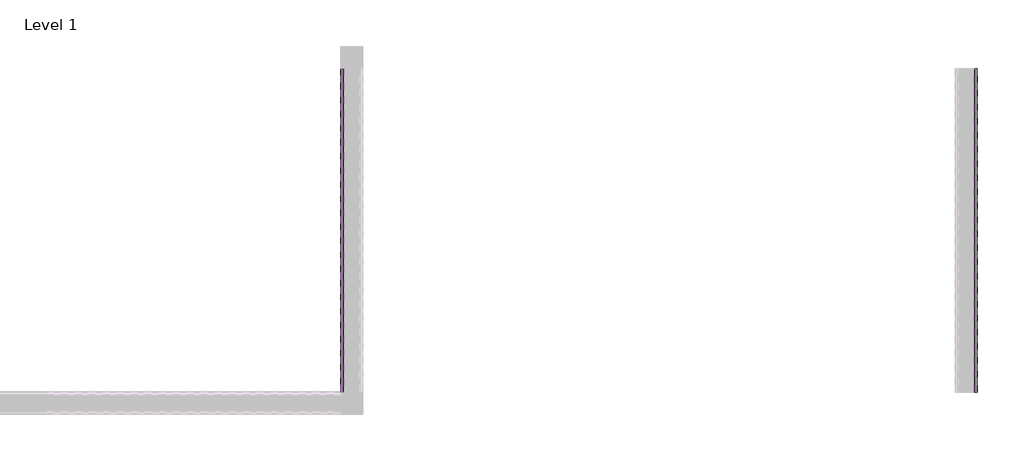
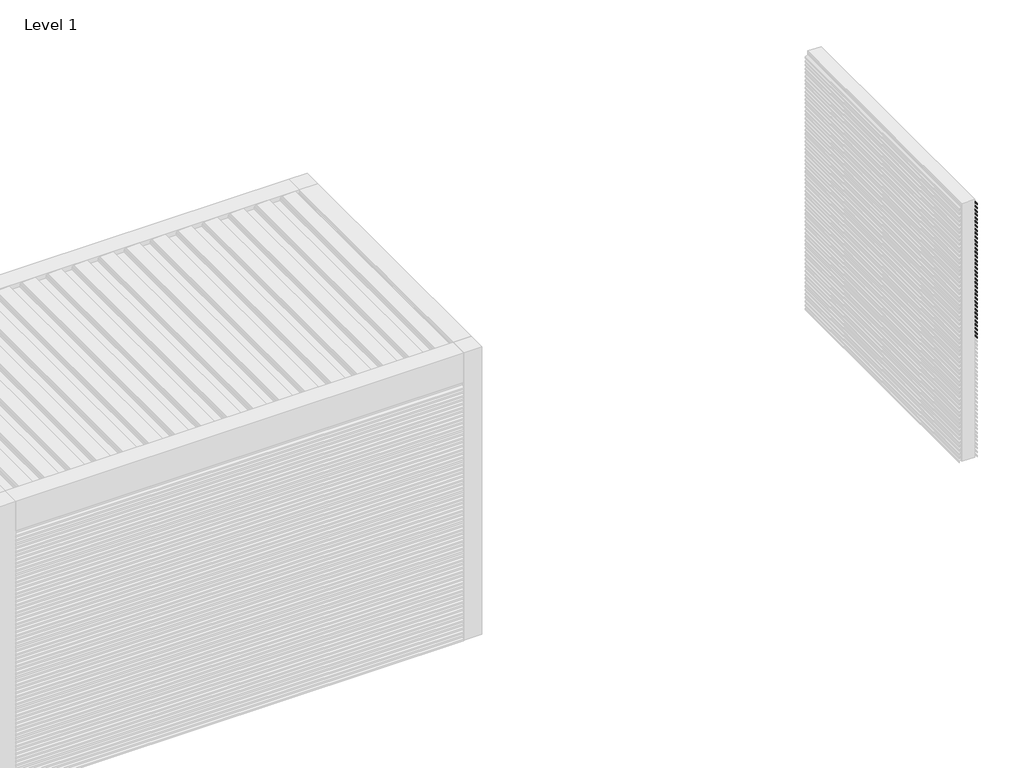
# One storey, part 67 of 69: 84 proxies.
"""IFC4 building model written with IfcOpenShell, lengths in millimetres."""

from ifc_helpers import new_model, si_unit, frame, origin, place, context, project, spatial, polyline, outline, extrude, element, save

model = new_model("IFC4")

# Units and contexts
model_context = context("Model", 3, world=origin())
ifc_project = project(units=[si_unit("LENGTHUNIT", "METRE", prefix="MILLI")], contexts=[model_context])

# Site, building, storey
site = spatial("IfcSite", under=ifc_project)
building = spatial("IfcBuilding", under=site)
storey = spatial("IfcBuildingStorey", under=building, Name="Level 1", Elevation=0.0)

# Proxies
placement = place(None, origin())
element("IfcBuildingElementProxy", 1, Name="Wall Sweeps", at=placement, inside=storey, context=model_context, shape_type="SweptSolid", body=[
    extrude(outline(polyline([(2207.1, 232580.4900207), (2218.1562577, 232561.3400207), (2231.1, 232561.3400207), (2231.1, 232560.0900207), (2217.4345698, 232560.0900207), (2206.3782281, 232579.2400207), (2194.3216933, 232579.2400207), (2193.6, 232580.4900207), (2207.1, 232580.4900207)])), frame((0.0, 39672.1593685, 0.0), z_axis=(0.0, 1.0, 0.0), x_axis=(0.0, 0.0, 1.0)), (0.0, 0.0, 1.0), 2200.0),
])
element("IfcBuildingElementProxy", 2, Name="Wall Sweeps", at=placement, inside=storey, context=model_context, shape_type="SweptSolid", body=[
    extrude(outline(polyline([(2173.8, 232580.4900207), (2184.8562577, 232561.3400207), (2197.8, 232561.3400207), (2197.8, 232560.0900207), (2184.1345698, 232560.0900207), (2173.0782281, 232579.2400207), (2161.0216933, 232579.2400207), (2160.3, 232580.4900207), (2173.8, 232580.4900207)])), frame((0.0, 39672.1593685, 0.0), z_axis=(0.0, 1.0, 0.0), x_axis=(0.0, 0.0, 1.0)), (0.0, 0.0, 1.0), 2200.0),
])
element("IfcBuildingElementProxy", 3, Name="Wall Sweeps", at=placement, inside=storey, context=model_context, shape_type="SweptSolid", body=[
    extrude(outline(polyline([(2140.5, 232580.4900207), (2151.5562577, 232561.3400207), (2164.5, 232561.3400207), (2164.5, 232560.0900207), (2150.8345698, 232560.0900207), (2139.7782281, 232579.2400207), (2127.7216933, 232579.2400207), (2127.0, 232580.4900207), (2140.5, 232580.4900207)])), frame((0.0, 39672.1593685, 0.0), z_axis=(0.0, 1.0, 0.0), x_axis=(0.0, 0.0, 1.0)), (0.0, 0.0, 1.0), 2200.0),
])
element("IfcBuildingElementProxy", 4, Name="Wall Sweeps", at=placement, inside=storey, context=model_context, shape_type="SweptSolid", body=[
    extrude(outline(polyline([(2107.2, 232580.4900207), (2118.2562577, 232561.3400207), (2131.2, 232561.3400207), (2131.2, 232560.0900207), (2117.5345698, 232560.0900207), (2106.4782281, 232579.2400207), (2094.4216933, 232579.2400207), (2093.7, 232580.4900207), (2107.2, 232580.4900207)])), frame((0.0, 39672.1593685, 0.0), z_axis=(0.0, 1.0, 0.0), x_axis=(0.0, 0.0, 1.0)), (0.0, 0.0, 1.0), 2200.0),
])
element("IfcBuildingElementProxy", 5, Name="Wall Sweeps", at=placement, inside=storey, context=model_context, shape_type="SweptSolid", body=[
    extrude(outline(polyline([(2073.9, 232580.4900207), (2084.9562577, 232561.3400207), (2097.9, 232561.3400207), (2097.9, 232560.0900207), (2084.2345698, 232560.0900207), (2073.1782281, 232579.2400207), (2061.1216933, 232579.2400207), (2060.4, 232580.4900207), (2073.9, 232580.4900207)])), frame((0.0, 39672.1593685, 0.0), z_axis=(0.0, 1.0, 0.0), x_axis=(0.0, 0.0, 1.0)), (0.0, 0.0, 1.0), 2200.0),
])
element("IfcBuildingElementProxy", 6, Name="Wall Sweeps", at=placement, inside=storey, context=model_context, shape_type="SweptSolid", body=[
    extrude(outline(polyline([(2040.6, 232580.4900207), (2051.6562577, 232561.3400207), (2064.6, 232561.3400207), (2064.6, 232560.0900207), (2050.9345698, 232560.0900207), (2039.8782281, 232579.2400207), (2027.8216933, 232579.2400207), (2027.1, 232580.4900207), (2040.6, 232580.4900207)])), frame((0.0, 39672.1593685, 0.0), z_axis=(0.0, 1.0, 0.0), x_axis=(0.0, 0.0, 1.0)), (0.0, 0.0, 1.0), 2200.0),
])
element("IfcBuildingElementProxy", 7, Name="Wall Sweeps", at=placement, inside=storey, context=model_context, shape_type="SweptSolid", body=[
    extrude(outline(polyline([(2007.3, 232580.4900207), (2018.3562577, 232561.3400207), (2031.3, 232561.3400207), (2031.3, 232560.0900207), (2017.6345698, 232560.0900207), (2006.5782281, 232579.2400207), (1994.5216933, 232579.2400207), (1993.8, 232580.4900207), (2007.3, 232580.4900207)])), frame((0.0, 39672.1593685, 0.0), z_axis=(0.0, 1.0, 0.0), x_axis=(0.0, 0.0, 1.0)), (0.0, 0.0, 1.0), 2200.0),
])
element("IfcBuildingElementProxy", 8, Name="Wall Sweeps", at=placement, inside=storey, context=model_context, shape_type="SweptSolid", body=[
    extrude(outline(polyline([(1974.0, 232580.4900207), (1985.0562577, 232561.3400207), (1998.0, 232561.3400207), (1998.0, 232560.0900207), (1984.3345698, 232560.0900207), (1973.2782281, 232579.2400207), (1961.2216933, 232579.2400207), (1960.5, 232580.4900207), (1974.0, 232580.4900207)])), frame((0.0, 39672.1593685, 0.0), z_axis=(0.0, 1.0, 0.0), x_axis=(0.0, 0.0, 1.0)), (0.0, 0.0, 1.0), 2200.0),
])
element("IfcBuildingElementProxy", 9, Name="Wall Sweeps", at=placement, inside=storey, context=model_context, shape_type="SweptSolid", body=[
    extrude(outline(polyline([(1940.7, 232580.4900207), (1951.7562577, 232561.3400207), (1964.7, 232561.3400207), (1964.7, 232560.0900207), (1951.0345698, 232560.0900207), (1939.9782281, 232579.2400207), (1927.9216933, 232579.2400207), (1927.2, 232580.4900207), (1940.7, 232580.4900207)])), frame((0.0, 39672.1593685, 0.0), z_axis=(0.0, 1.0, 0.0), x_axis=(0.0, 0.0, 1.0)), (0.0, 0.0, 1.0), 2200.0),
])
element("IfcBuildingElementProxy", 10, Name="Wall Sweeps", at=placement, inside=storey, context=model_context, shape_type="SweptSolid", body=[
    extrude(outline(polyline([(1907.4, 232580.4900207), (1918.4562577, 232561.3400207), (1931.4, 232561.3400207), (1931.4, 232560.0900207), (1917.7345698, 232560.0900207), (1906.6782281, 232579.2400207), (1894.6216933, 232579.2400207), (1893.9, 232580.4900207), (1907.4, 232580.4900207)])), frame((0.0, 39672.1593685, 0.0), z_axis=(0.0, 1.0, 0.0), x_axis=(0.0, 0.0, 1.0)), (0.0, 0.0, 1.0), 2200.0),
])
element("IfcBuildingElementProxy", 11, Name="Wall Sweeps", at=placement, inside=storey, context=model_context, shape_type="SweptSolid", body=[
    extrude(outline(polyline([(1874.1, 232580.4900207), (1885.1562577, 232561.3400207), (1898.1, 232561.3400207), (1898.1, 232560.0900207), (1884.4345698, 232560.0900207), (1873.3782281, 232579.2400207), (1861.3216933, 232579.2400207), (1860.6, 232580.4900207), (1874.1, 232580.4900207)])), frame((0.0, 39672.1593685, 0.0), z_axis=(0.0, 1.0, 0.0), x_axis=(0.0, 0.0, 1.0)), (0.0, 0.0, 1.0), 2200.0),
])
element("IfcBuildingElementProxy", 12, Name="Wall Sweeps", at=placement, inside=storey, context=model_context, shape_type="SweptSolid", body=[
    extrude(outline(polyline([(1840.8, 232580.4900207), (1851.8562577, 232561.3400207), (1864.8, 232561.3400207), (1864.8, 232560.0900207), (1851.1345698, 232560.0900207), (1840.0782281, 232579.2400207), (1828.0216933, 232579.2400207), (1827.3, 232580.4900207), (1840.8, 232580.4900207)])), frame((0.0, 39672.1593685, 0.0), z_axis=(0.0, 1.0, 0.0), x_axis=(0.0, 0.0, 1.0)), (0.0, 0.0, 1.0), 2200.0),
])
element("IfcBuildingElementProxy", 13, Name="Wall Sweeps", at=placement, inside=storey, context=model_context, shape_type="SweptSolid", body=[
    extrude(outline(polyline([(1807.5, 232580.4900207), (1818.5562577, 232561.3400207), (1831.5, 232561.3400207), (1831.5, 232560.0900207), (1817.8345698, 232560.0900207), (1806.7782281, 232579.2400207), (1794.7216933, 232579.2400207), (1794.0, 232580.4900207), (1807.5, 232580.4900207)])), frame((0.0, 39672.1593685, 0.0), z_axis=(0.0, 1.0, 0.0), x_axis=(0.0, 0.0, 1.0)), (0.0, 0.0, 1.0), 2200.0),
])
element("IfcBuildingElementProxy", 14, Name="Wall Sweeps", at=placement, inside=storey, context=model_context, shape_type="SweptSolid", body=[
    extrude(outline(polyline([(1774.2, 232580.4900207), (1785.2562577, 232561.3400207), (1798.2, 232561.3400207), (1798.2, 232560.0900207), (1784.5345698, 232560.0900207), (1773.4782281, 232579.2400207), (1761.4216933, 232579.2400207), (1760.7, 232580.4900207), (1774.2, 232580.4900207)])), frame((0.0, 39672.1593685, 0.0), z_axis=(0.0, 1.0, 0.0), x_axis=(0.0, 0.0, 1.0)), (0.0, 0.0, 1.0), 2200.0),
])
element("IfcBuildingElementProxy", 15, Name="Wall Sweeps", at=placement, inside=storey, context=model_context, shape_type="SweptSolid", body=[
    extrude(outline(polyline([(1740.9, 232580.4900207), (1751.9562577, 232561.3400207), (1764.9, 232561.3400207), (1764.9, 232560.0900207), (1751.2345698, 232560.0900207), (1740.1782281, 232579.2400207), (1728.1216933, 232579.2400207), (1727.4, 232580.4900207), (1740.9, 232580.4900207)])), frame((0.0, 39672.1593685, 0.0), z_axis=(0.0, 1.0, 0.0), x_axis=(0.0, 0.0, 1.0)), (0.0, 0.0, 1.0), 2200.0),
])
element("IfcBuildingElementProxy", 16, Name="Wall Sweeps", at=placement, inside=storey, context=model_context, shape_type="SweptSolid", body=[
    extrude(outline(polyline([(1707.6, 232580.4900207), (1718.6562577, 232561.3400207), (1731.6, 232561.3400207), (1731.6, 232560.0900207), (1717.9345698, 232560.0900207), (1706.8782281, 232579.2400207), (1694.8216933, 232579.2400207), (1694.1, 232580.4900207), (1707.6, 232580.4900207)])), frame((0.0, 39672.1593685, 0.0), z_axis=(0.0, 1.0, 0.0), x_axis=(0.0, 0.0, 1.0)), (0.0, 0.0, 1.0), 2200.0),
])
element("IfcBuildingElementProxy", 17, Name="Wall Sweeps", at=placement, inside=storey, context=model_context, shape_type="SweptSolid", body=[
    extrude(outline(polyline([(1674.3, 232580.4900207), (1685.3562577, 232561.3400207), (1698.3, 232561.3400207), (1698.3, 232560.0900207), (1684.6345698, 232560.0900207), (1673.5782281, 232579.2400207), (1661.5216933, 232579.2400207), (1660.8, 232580.4900207), (1674.3, 232580.4900207)])), frame((0.0, 39672.1593685, 0.0), z_axis=(0.0, 1.0, 0.0), x_axis=(0.0, 0.0, 1.0)), (0.0, 0.0, 1.0), 2200.0),
])
element("IfcBuildingElementProxy", 18, Name="Wall Sweeps", at=placement, inside=storey, context=model_context, shape_type="SweptSolid", body=[
    extrude(outline(polyline([(1641.0, 232580.4900207), (1652.0562577, 232561.3400207), (1665.0, 232561.3400207), (1665.0, 232560.0900207), (1651.3345698, 232560.0900207), (1640.2782281, 232579.2400207), (1628.2216933, 232579.2400207), (1627.5, 232580.4900207), (1641.0, 232580.4900207)])), frame((0.0, 39672.1593685, 0.0), z_axis=(0.0, 1.0, 0.0), x_axis=(0.0, 0.0, 1.0)), (0.0, 0.0, 1.0), 2200.0),
])
element("IfcBuildingElementProxy", 19, Name="Wall Sweeps", at=placement, inside=storey, context=model_context, shape_type="SweptSolid", body=[
    extrude(outline(polyline([(1607.7, 232580.4900207), (1618.7562577, 232561.3400207), (1631.7, 232561.3400207), (1631.7, 232560.0900207), (1618.0345698, 232560.0900207), (1606.9782281, 232579.2400207), (1594.9216933, 232579.2400207), (1594.2, 232580.4900207), (1607.7, 232580.4900207)])), frame((0.0, 39672.1593685, 0.0), z_axis=(0.0, 1.0, 0.0), x_axis=(0.0, 0.0, 1.0)), (0.0, 0.0, 1.0), 2200.0),
])
element("IfcBuildingElementProxy", 20, Name="Wall Sweeps", at=placement, inside=storey, context=model_context, shape_type="SweptSolid", body=[
    extrude(outline(polyline([(1574.4, 232580.4900207), (1585.4562577, 232561.3400207), (1598.4, 232561.3400207), (1598.4, 232560.0900207), (1584.7345698, 232560.0900207), (1573.6782281, 232579.2400207), (1561.6216933, 232579.2400207), (1560.9, 232580.4900207), (1574.4, 232580.4900207)])), frame((0.0, 39672.1593685, 0.0), z_axis=(0.0, 1.0, 0.0), x_axis=(0.0, 0.0, 1.0)), (0.0, 0.0, 1.0), 2200.0),
])
element("IfcBuildingElementProxy", 21, Name="Wall Sweeps", at=placement, inside=storey, context=model_context, shape_type="SweptSolid", body=[
    extrude(outline(polyline([(1541.1, 232580.4900207), (1552.1562577, 232561.3400207), (1565.1, 232561.3400207), (1565.1, 232560.0900207), (1551.4345698, 232560.0900207), (1540.3782281, 232579.2400207), (1528.3216933, 232579.2400207), (1527.6, 232580.4900207), (1541.1, 232580.4900207)])), frame((0.0, 39672.1593685, 0.0), z_axis=(0.0, 1.0, 0.0), x_axis=(0.0, 0.0, 1.0)), (0.0, 0.0, 1.0), 2200.0),
])
element("IfcBuildingElementProxy", 22, Name="Wall Sweeps", at=placement, inside=storey, context=model_context, shape_type="SweptSolid", body=[
    extrude(outline(polyline([(1507.8, 232580.4900207), (1518.8562577, 232561.3400207), (1531.8, 232561.3400207), (1531.8, 232560.0900207), (1518.1345698, 232560.0900207), (1507.0782281, 232579.2400207), (1495.0216933, 232579.2400207), (1494.3, 232580.4900207), (1507.8, 232580.4900207)])), frame((0.0, 39672.1593685, 0.0), z_axis=(0.0, 1.0, 0.0), x_axis=(0.0, 0.0, 1.0)), (0.0, 0.0, 1.0), 2200.0),
])
element("IfcBuildingElementProxy", 23, Name="Wall Sweeps", at=placement, inside=storey, context=model_context, shape_type="SweptSolid", body=[
    extrude(outline(polyline([(1474.5, 232580.4900207), (1485.5562577, 232561.3400207), (1498.5, 232561.3400207), (1498.5, 232560.0900207), (1484.8345698, 232560.0900207), (1473.7782281, 232579.2400207), (1461.7216933, 232579.2400207), (1461.0, 232580.4900207), (1474.5, 232580.4900207)])), frame((0.0, 39672.1593685, 0.0), z_axis=(0.0, 1.0, 0.0), x_axis=(0.0, 0.0, 1.0)), (0.0, 0.0, 1.0), 2200.0),
])
element("IfcBuildingElementProxy", 24, Name="Wall Sweeps", at=placement, inside=storey, context=model_context, shape_type="SweptSolid", body=[
    extrude(outline(polyline([(1441.2, 232580.4900207), (1452.2562577, 232561.3400207), (1465.2, 232561.3400207), (1465.2, 232560.0900207), (1451.5345698, 232560.0900207), (1440.4782281, 232579.2400207), (1428.4216933, 232579.2400207), (1427.7, 232580.4900207), (1441.2, 232580.4900207)])), frame((0.0, 39672.1593685, 0.0), z_axis=(0.0, 1.0, 0.0), x_axis=(0.0, 0.0, 1.0)), (0.0, 0.0, 1.0), 2200.0),
])
element("IfcBuildingElementProxy", 25, Name="Wall Sweeps", at=placement, inside=storey, context=model_context, shape_type="SweptSolid", body=[
    extrude(outline(polyline([(1407.9, 232580.4900207), (1418.9562577, 232561.3400207), (1431.9, 232561.3400207), (1431.9, 232560.0900207), (1418.2345698, 232560.0900207), (1407.1782281, 232579.2400207), (1395.1216933, 232579.2400207), (1394.4, 232580.4900207), (1407.9, 232580.4900207)])), frame((0.0, 39672.1593685, 0.0), z_axis=(0.0, 1.0, 0.0), x_axis=(0.0, 0.0, 1.0)), (0.0, 0.0, 1.0), 2200.0),
])
element("IfcBuildingElementProxy", 26, Name="Wall Sweeps", at=placement, inside=storey, context=model_context, shape_type="SweptSolid", body=[
    extrude(outline(polyline([(1374.6, 232580.4900207), (1385.6562577, 232561.3400207), (1398.6, 232561.3400207), (1398.6, 232560.0900207), (1384.9345698, 232560.0900207), (1373.8782281, 232579.2400207), (1361.8216933, 232579.2400207), (1361.1, 232580.4900207), (1374.6, 232580.4900207)])), frame((0.0, 39672.1593685, 0.0), z_axis=(0.0, 1.0, 0.0), x_axis=(0.0, 0.0, 1.0)), (0.0, 0.0, 1.0), 2200.0),
])
element("IfcBuildingElementProxy", 27, Name="Wall Sweeps", at=placement, inside=storey, context=model_context, shape_type="SweptSolid", body=[
    extrude(outline(polyline([(1341.3, 232580.4900207), (1352.3562577, 232561.3400207), (1365.3, 232561.3400207), (1365.3, 232560.0900207), (1351.6345698, 232560.0900207), (1340.5782281, 232579.2400207), (1328.5216933, 232579.2400207), (1327.8, 232580.4900207), (1341.3, 232580.4900207)])), frame((0.0, 39672.1593685, 0.0), z_axis=(0.0, 1.0, 0.0), x_axis=(0.0, 0.0, 1.0)), (0.0, 0.0, 1.0), 2200.0),
])
element("IfcBuildingElementProxy", 28, Name="Wall Sweeps", at=placement, inside=storey, context=model_context, shape_type="SweptSolid", body=[
    extrude(outline(polyline([(1308.0, 232580.4900207), (1319.0562577, 232561.3400207), (1332.0, 232561.3400207), (1332.0, 232560.0900207), (1318.3345698, 232560.0900207), (1307.2782281, 232579.2400207), (1295.2216933, 232579.2400207), (1294.5, 232580.4900207), (1308.0, 232580.4900207)])), frame((0.0, 39672.1593685, 0.0), z_axis=(0.0, 1.0, 0.0), x_axis=(0.0, 0.0, 1.0)), (0.0, 0.0, 1.0), 2200.0),
])
element("IfcBuildingElementProxy", 29, Name="Wall Sweeps", at=placement, inside=storey, context=model_context, shape_type="SweptSolid", body=[
    extrude(outline(polyline([(1274.7, 232580.4900207), (1285.7562577, 232561.3400207), (1298.7, 232561.3400207), (1298.7, 232560.0900207), (1285.0345698, 232560.0900207), (1273.9782281, 232579.2400207), (1261.9216933, 232579.2400207), (1261.2, 232580.4900207), (1274.7, 232580.4900207)])), frame((0.0, 39672.1593685, 0.0), z_axis=(0.0, 1.0, 0.0), x_axis=(0.0, 0.0, 1.0)), (0.0, 0.0, 1.0), 2200.0),
])
element("IfcBuildingElementProxy", 30, Name="Wall Sweeps", at=placement, inside=storey, context=model_context, shape_type="SweptSolid", body=[
    extrude(outline(polyline([(1241.4, 232580.4900207), (1252.4562577, 232561.3400207), (1265.4, 232561.3400207), (1265.4, 232560.0900207), (1251.7345698, 232560.0900207), (1240.6782281, 232579.2400207), (1228.6216933, 232579.2400207), (1227.9, 232580.4900207), (1241.4, 232580.4900207)])), frame((0.0, 39672.1593685, 0.0), z_axis=(0.0, 1.0, 0.0), x_axis=(0.0, 0.0, 1.0)), (0.0, 0.0, 1.0), 2200.0),
])
element("IfcBuildingElementProxy", 31, Name="Wall Sweeps", at=placement, inside=storey, context=model_context, shape_type="SweptSolid", body=[
    extrude(outline(polyline([(1208.1, 232580.4900207), (1219.1562577, 232561.3400207), (1232.1, 232561.3400207), (1232.1, 232560.0900207), (1218.4345698, 232560.0900207), (1207.3782281, 232579.2400207), (1195.3216933, 232579.2400207), (1194.6, 232580.4900207), (1208.1, 232580.4900207)])), frame((0.0, 39672.1593685, 0.0), z_axis=(0.0, 1.0, 0.0), x_axis=(0.0, 0.0, 1.0)), (0.0, 0.0, 1.0), 2200.0),
])
element("IfcBuildingElementProxy", 32, Name="Wall Sweeps", at=placement, inside=storey, context=model_context, shape_type="SweptSolid", body=[
    extrude(outline(polyline([(1174.8, 232580.4900207), (1185.8562577, 232561.3400207), (1198.8, 232561.3400207), (1198.8, 232560.0900207), (1185.1345698, 232560.0900207), (1174.0782281, 232579.2400207), (1162.0216933, 232579.2400207), (1161.3, 232580.4900207), (1174.8, 232580.4900207)])), frame((0.0, 39672.1593685, 0.0), z_axis=(0.0, 1.0, 0.0), x_axis=(0.0, 0.0, 1.0)), (0.0, 0.0, 1.0), 2200.0),
])
element("IfcBuildingElementProxy", 33, Name="Wall Sweeps", at=placement, inside=storey, context=model_context, shape_type="SweptSolid", body=[
    extrude(outline(polyline([(1141.5, 232580.4900207), (1152.5562577, 232561.3400207), (1165.5, 232561.3400207), (1165.5, 232560.0900207), (1151.8345698, 232560.0900207), (1140.7782281, 232579.2400207), (1128.7216933, 232579.2400207), (1128.0, 232580.4900207), (1141.5, 232580.4900207)])), frame((0.0, 39672.1593685, 0.0), z_axis=(0.0, 1.0, 0.0), x_axis=(0.0, 0.0, 1.0)), (0.0, 0.0, 1.0), 2200.0),
])
element("IfcBuildingElementProxy", 34, Name="Wall Sweeps", at=placement, inside=storey, context=model_context, shape_type="SweptSolid", body=[
    extrude(outline(polyline([(1108.2, 232580.4900207), (1119.2562577, 232561.3400207), (1132.2, 232561.3400207), (1132.2, 232560.0900207), (1118.5345698, 232560.0900207), (1107.4782281, 232579.2400207), (1095.4216933, 232579.2400207), (1094.7, 232580.4900207), (1108.2, 232580.4900207)])), frame((0.0, 39672.1593685, 0.0), z_axis=(0.0, 1.0, 0.0), x_axis=(0.0, 0.0, 1.0)), (0.0, 0.0, 1.0), 2200.0),
])
element("IfcBuildingElementProxy", 35, Name="Wall Sweeps", at=placement, inside=storey, context=model_context, shape_type="SweptSolid", body=[
    extrude(outline(polyline([(1074.9, 232580.4900207), (1085.9562577, 232561.3400207), (1098.9, 232561.3400207), (1098.9, 232560.0900207), (1085.2345698, 232560.0900207), (1074.1782281, 232579.2400207), (1062.1216933, 232579.2400207), (1061.4, 232580.4900207), (1074.9, 232580.4900207)])), frame((0.0, 39672.1593685, 0.0), z_axis=(0.0, 1.0, 0.0), x_axis=(0.0, 0.0, 1.0)), (0.0, 0.0, 1.0), 2200.0),
])
element("IfcBuildingElementProxy", 36, Name="Wall Sweeps", at=placement, inside=storey, context=model_context, shape_type="SweptSolid", body=[
    extrude(outline(polyline([(1041.6, 232580.4900207), (1052.6562577, 232561.3400207), (1065.6, 232561.3400207), (1065.6, 232560.0900207), (1051.9345698, 232560.0900207), (1040.8782281, 232579.2400207), (1028.8216933, 232579.2400207), (1028.1, 232580.4900207), (1041.6, 232580.4900207)])), frame((0.0, 39672.1593685, 0.0), z_axis=(0.0, 1.0, 0.0), x_axis=(0.0, 0.0, 1.0)), (0.0, 0.0, 1.0), 2200.0),
])
element("IfcBuildingElementProxy", 37, Name="Wall Sweeps", at=placement, inside=storey, context=model_context, shape_type="SweptSolid", body=[
    extrude(outline(polyline([(809.3, 228248.6900207), (795.8, 228248.6900207), (796.5216933, 228249.9400207), (808.5782281, 228249.9400207), (819.6345698, 228269.0900207), (833.3, 228269.0900207), (833.3, 228267.8400207), (820.3562577, 228267.8400207), (809.3, 228248.6900207)])), frame((0.0, 39672.1593685, 0.0), z_axis=(0.0, 1.0, 0.0), x_axis=(0.0, 0.0, 1.0)), (0.0, 0.0, 1.0), 2200.0),
])
element("IfcBuildingElementProxy", 38, Name="Wall Sweeps", at=placement, inside=storey, context=model_context, shape_type="SweptSolid", body=[
    extrude(outline(polyline([(842.6, 228248.6900207), (829.1, 228248.6900207), (829.8216933, 228249.9400207), (841.8782281, 228249.9400207), (852.9345698, 228269.0900207), (866.6, 228269.0900207), (866.6, 228267.8400207), (853.6562577, 228267.8400207), (842.6, 228248.6900207)])), frame((0.0, 39672.1593685, 0.0), z_axis=(0.0, 1.0, 0.0), x_axis=(0.0, 0.0, 1.0)), (0.0, 0.0, 1.0), 2200.0),
])
element("IfcBuildingElementProxy", 39, Name="Wall Sweeps", at=placement, inside=storey, context=model_context, shape_type="SweptSolid", body=[
    extrude(outline(polyline([(875.9, 228248.6900207), (862.4, 228248.6900207), (863.1216933, 228249.9400207), (875.1782281, 228249.9400207), (886.2345698, 228269.0900207), (899.9, 228269.0900207), (899.9, 228267.8400207), (886.9562577, 228267.8400207), (875.9, 228248.6900207)])), frame((0.0, 39672.1593685, 0.0), z_axis=(0.0, 1.0, 0.0), x_axis=(0.0, 0.0, 1.0)), (0.0, 0.0, 1.0), 2200.0),
])
element("IfcBuildingElementProxy", 40, Name="Wall Sweeps", at=placement, inside=storey, context=model_context, shape_type="SweptSolid", body=[
    extrude(outline(polyline([(909.2, 228248.6900207), (895.7, 228248.6900207), (896.4216933, 228249.9400207), (908.4782281, 228249.9400207), (919.5345698, 228269.0900207), (933.2, 228269.0900207), (933.2, 228267.8400207), (920.2562577, 228267.8400207), (909.2, 228248.6900207)])), frame((0.0, 39672.1593685, 0.0), z_axis=(0.0, 1.0, 0.0), x_axis=(0.0, 0.0, 1.0)), (0.0, 0.0, 1.0), 2200.0),
])
element("IfcBuildingElementProxy", 41, Name="Wall Sweeps", at=placement, inside=storey, context=model_context, shape_type="SweptSolid", body=[
    extrude(outline(polyline([(942.6, 228248.6900207), (929.1, 228248.6900207), (929.8216933, 228249.9400207), (941.8782281, 228249.9400207), (952.9345698, 228269.0900207), (966.6, 228269.0900207), (966.6, 228267.8400207), (953.6562577, 228267.8400207), (942.6, 228248.6900207)])), frame((0.0, 39672.1593685, 0.0), z_axis=(0.0, 1.0, 0.0), x_axis=(0.0, 0.0, 1.0)), (0.0, 0.0, 1.0), 2200.0),
])
element("IfcBuildingElementProxy", 42, Name="Wall Sweeps", at=placement, inside=storey, context=model_context, shape_type="SweptSolid", body=[
    extrude(outline(polyline([(975.9, 228248.6900207), (962.4, 228248.6900207), (963.1216933, 228249.9400207), (975.1782281, 228249.9400207), (986.2345698, 228269.0900207), (999.9, 228269.0900207), (999.9, 228267.8400207), (986.9562577, 228267.8400207), (975.9, 228248.6900207)])), frame((0.0, 39672.1593685, 0.0), z_axis=(0.0, 1.0, 0.0), x_axis=(0.0, 0.0, 1.0)), (0.0, 0.0, 1.0), 2200.0),
])
element("IfcBuildingElementProxy", 43, Name="Wall Sweeps", at=placement, inside=storey, context=model_context, shape_type="SweptSolid", body=[
    extrude(outline(polyline([(76.0, 228400.4900207), (87.0562577, 228381.3400207), (100.0, 228381.3400207), (100.0, 228380.0900207), (86.3345698, 228380.0900207), (75.2782281, 228399.2400207), (63.2216933, 228399.2400207), (62.5, 228400.4900207), (76.0, 228400.4900207)])), frame((0.0, 39672.1593685, 0.0), z_axis=(0.0, 1.0, 0.0), x_axis=(0.0, 0.0, 1.0)), (0.0, 0.0, 1.0), 2200.0),
])
element("IfcBuildingElementProxy", 44, Name="Wall Sweeps", at=placement, inside=storey, context=model_context, shape_type="SweptSolid", body=[
    extrude(outline(polyline([(76.0, 228248.6900207), (62.5, 228248.6900207), (63.2216933, 228249.9400207), (75.2782281, 228249.9400207), (86.3345698, 228269.0900207), (100.0, 228269.0900207), (100.0, 228267.8400207), (87.0562577, 228267.8400207), (76.0, 228248.6900207)])), frame((0.0, 39672.1593685, 0.0), z_axis=(0.0, 1.0, 0.0), x_axis=(0.0, 0.0, 1.0)), (0.0, 0.0, 1.0), 2200.0),
])
element("IfcBuildingElementProxy", 45, Name="Wall Sweeps", at=placement, inside=storey, context=model_context, shape_type="SweptSolid", body=[
    extrude(outline(polyline([(1009.2, 228248.6900207), (995.7, 228248.6900207), (996.4216933, 228249.9400207), (1008.4782281, 228249.9400207), (1019.5345698, 228269.0900207), (1033.2, 228269.0900207), (1033.2, 228267.8400207), (1020.2562577, 228267.8400207), (1009.2, 228248.6900207)])), frame((0.0, 39672.1593685, 0.0), z_axis=(0.0, 1.0, 0.0), x_axis=(0.0, 0.0, 1.0)), (0.0, 0.0, 1.0), 2200.0),
])
element("IfcBuildingElementProxy", 46, Name="Wall Sweeps", at=placement, inside=storey, context=model_context, shape_type="SweptSolid", body=[
    extrude(outline(polyline([(1042.6, 228248.6900207), (1029.1, 228248.6900207), (1029.8216933, 228249.9400207), (1041.8782281, 228249.9400207), (1052.9345698, 228269.0900207), (1066.6, 228269.0900207), (1066.6, 228267.8400207), (1053.6562577, 228267.8400207), (1042.6, 228248.6900207)])), frame((0.0, 39672.1593685, 0.0), z_axis=(0.0, 1.0, 0.0), x_axis=(0.0, 0.0, 1.0)), (0.0, 0.0, 1.0), 2200.0),
])
element("IfcBuildingElementProxy", 47, Name="Wall Sweeps", at=placement, inside=storey, context=model_context, shape_type="SweptSolid", body=[
    extrude(outline(polyline([(1109.2, 228248.6900207), (1095.7, 228248.6900207), (1096.4216933, 228249.9400207), (1108.4782281, 228249.9400207), (1119.5345698, 228269.0900207), (1133.2, 228269.0900207), (1133.2, 228267.8400207), (1120.2562577, 228267.8400207), (1109.2, 228248.6900207)])), frame((0.0, 39672.1593685, 0.0), z_axis=(0.0, 1.0, 0.0), x_axis=(0.0, 0.0, 1.0)), (0.0, 0.0, 1.0), 2200.0),
])
element("IfcBuildingElementProxy", 48, Name="Wall Sweeps", at=placement, inside=storey, context=model_context, shape_type="SweptSolid", body=[
    extrude(outline(polyline([(1142.6, 228248.6900207), (1129.1, 228248.6900207), (1129.8216933, 228249.9400207), (1141.8782281, 228249.9400207), (1152.9345698, 228269.0900207), (1166.6, 228269.0900207), (1166.6, 228267.8400207), (1153.6562577, 228267.8400207), (1142.6, 228248.6900207)])), frame((0.0, 39672.1593685, 0.0), z_axis=(0.0, 1.0, 0.0), x_axis=(0.0, 0.0, 1.0)), (0.0, 0.0, 1.0), 2200.0),
])
element("IfcBuildingElementProxy", 49, Name="Wall Sweeps", at=placement, inside=storey, context=model_context, shape_type="SweptSolid", body=[
    extrude(outline(polyline([(1175.9, 228248.6900207), (1162.4, 228248.6900207), (1163.1216933, 228249.9400207), (1175.1782281, 228249.9400207), (1186.2345698, 228269.0900207), (1199.9, 228269.0900207), (1199.9, 228267.8400207), (1186.9562577, 228267.8400207), (1175.9, 228248.6900207)])), frame((0.0, 39672.1593685, 0.0), z_axis=(0.0, 1.0, 0.0), x_axis=(0.0, 0.0, 1.0)), (0.0, 0.0, 1.0), 2200.0),
])
element("IfcBuildingElementProxy", 50, Name="Wall Sweeps", at=placement, inside=storey, context=model_context, shape_type="SweptSolid", body=[
    extrude(outline(polyline([(1209.2, 228248.6900207), (1195.7, 228248.6900207), (1196.4216933, 228249.9400207), (1208.4782281, 228249.9400207), (1219.5345698, 228269.0900207), (1233.2, 228269.0900207), (1233.2, 228267.8400207), (1220.2562577, 228267.8400207), (1209.2, 228248.6900207)])), frame((0.0, 39672.1593685, 0.0), z_axis=(0.0, 1.0, 0.0), x_axis=(0.0, 0.0, 1.0)), (0.0, 0.0, 1.0), 2200.0),
])
element("IfcBuildingElementProxy", 51, Name="Wall Sweeps", at=placement, inside=storey, context=model_context, shape_type="SweptSolid", body=[
    extrude(outline(polyline([(1242.5, 228248.6900207), (1229.0, 228248.6900207), (1229.7216933, 228249.9400207), (1241.7782281, 228249.9400207), (1252.8345698, 228269.0900207), (1266.5, 228269.0900207), (1266.5, 228267.8400207), (1253.5562577, 228267.8400207), (1242.5, 228248.6900207)])), frame((0.0, 39672.1593685, 0.0), z_axis=(0.0, 1.0, 0.0), x_axis=(0.0, 0.0, 1.0)), (0.0, 0.0, 1.0), 2200.0),
])
element("IfcBuildingElementProxy", 52, Name="Wall Sweeps", at=placement, inside=storey, context=model_context, shape_type="SweptSolid", body=[
    extrude(outline(polyline([(1275.9, 228248.6900207), (1262.4, 228248.6900207), (1263.1216933, 228249.9400207), (1275.1782281, 228249.9400207), (1286.2345698, 228269.0900207), (1299.9, 228269.0900207), (1299.9, 228267.8400207), (1286.9562577, 228267.8400207), (1275.9, 228248.6900207)])), frame((0.0, 39672.1593685, 0.0), z_axis=(0.0, 1.0, 0.0), x_axis=(0.0, 0.0, 1.0)), (0.0, 0.0, 1.0), 2200.0),
])
element("IfcBuildingElementProxy", 53, Name="Wall Sweeps", at=placement, inside=storey, context=model_context, shape_type="SweptSolid", body=[
    extrude(outline(polyline([(109.3, 228248.6900207), (95.8, 228248.6900207), (96.5216933, 228249.9400207), (108.5782281, 228249.9400207), (119.6345698, 228269.0900207), (133.3, 228269.0900207), (133.3, 228267.8400207), (120.3562577, 228267.8400207), (109.3, 228248.6900207)])), frame((0.0, 39672.1593685, 0.0), z_axis=(0.0, 1.0, 0.0), x_axis=(0.0, 0.0, 1.0)), (0.0, 0.0, 1.0), 2200.0),
])
element("IfcBuildingElementProxy", 54, Name="Wall Sweeps", at=placement, inside=storey, context=model_context, shape_type="SweptSolid", body=[
    extrude(outline(polyline([(1309.2, 228248.6900207), (1295.7, 228248.6900207), (1296.4216933, 228249.9400207), (1308.4782281, 228249.9400207), (1319.5345698, 228269.0900207), (1333.2, 228269.0900207), (1333.2, 228267.8400207), (1320.2562577, 228267.8400207), (1309.2, 228248.6900207)])), frame((0.0, 39672.1593685, 0.0), z_axis=(0.0, 1.0, 0.0), x_axis=(0.0, 0.0, 1.0)), (0.0, 0.0, 1.0), 2200.0),
])
element("IfcBuildingElementProxy", 55, Name="Wall Sweeps", at=placement, inside=storey, context=model_context, shape_type="SweptSolid", body=[
    extrude(outline(polyline([(1342.5, 228248.6900207), (1329.0, 228248.6900207), (1329.7216933, 228249.9400207), (1341.7782281, 228249.9400207), (1352.8345698, 228269.0900207), (1366.5, 228269.0900207), (1366.5, 228267.8400207), (1353.5562577, 228267.8400207), (1342.5, 228248.6900207)])), frame((0.0, 39672.1593685, 0.0), z_axis=(0.0, 1.0, 0.0), x_axis=(0.0, 0.0, 1.0)), (0.0, 0.0, 1.0), 2200.0),
])
element("IfcBuildingElementProxy", 56, Name="Wall Sweeps", at=placement, inside=storey, context=model_context, shape_type="SweptSolid", body=[
    extrude(outline(polyline([(1375.9, 228248.6900207), (1362.4, 228248.6900207), (1363.1216933, 228249.9400207), (1375.1782281, 228249.9400207), (1386.2345698, 228269.0900207), (1399.9, 228269.0900207), (1399.9, 228267.8400207), (1386.9562577, 228267.8400207), (1375.9, 228248.6900207)])), frame((0.0, 39672.1593685, 0.0), z_axis=(0.0, 1.0, 0.0), x_axis=(0.0, 0.0, 1.0)), (0.0, 0.0, 1.0), 2200.0),
])
element("IfcBuildingElementProxy", 57, Name="Wall Sweeps", at=placement, inside=storey, context=model_context, shape_type="SweptSolid", body=[
    extrude(outline(polyline([(1442.5, 228248.6900207), (1429.0, 228248.6900207), (1429.7216933, 228249.9400207), (1441.7782281, 228249.9400207), (1452.8345698, 228269.0900207), (1466.5, 228269.0900207), (1466.5, 228267.8400207), (1453.5562577, 228267.8400207), (1442.5, 228248.6900207)])), frame((0.0, 39672.1593685, 0.0), z_axis=(0.0, 1.0, 0.0), x_axis=(0.0, 0.0, 1.0)), (0.0, 0.0, 1.0), 2200.0),
])
element("IfcBuildingElementProxy", 58, Name="Wall Sweeps", at=placement, inside=storey, context=model_context, shape_type="SweptSolid", body=[
    extrude(outline(polyline([(1474.5, 228248.6900207), (1461.0, 228248.6900207), (1461.7216933, 228249.9400207), (1473.7782281, 228249.9400207), (1484.8345698, 228269.0900207), (1498.5, 228269.0900207), (1498.5, 228267.8400207), (1485.5562577, 228267.8400207), (1474.5, 228248.6900207)])), frame((0.0, 39672.1593685, 0.0), z_axis=(0.0, 1.0, 0.0), x_axis=(0.0, 0.0, 1.0)), (0.0, 0.0, 1.0), 2200.0),
])
element("IfcBuildingElementProxy", 59, Name="Wall Sweeps", at=placement, inside=storey, context=model_context, shape_type="SweptSolid", body=[
    extrude(outline(polyline([(1507.8, 228248.6900207), (1494.3, 228248.6900207), (1495.0216933, 228249.9400207), (1507.0782281, 228249.9400207), (1518.1345698, 228269.0900207), (1531.8, 228269.0900207), (1531.8, 228267.8400207), (1518.8562577, 228267.8400207), (1507.8, 228248.6900207)])), frame((0.0, 39672.1593685, 0.0), z_axis=(0.0, 1.0, 0.0), x_axis=(0.0, 0.0, 1.0)), (0.0, 0.0, 1.0), 2200.0),
])
element("IfcBuildingElementProxy", 60, Name="Wall Sweeps", at=placement, inside=storey, context=model_context, shape_type="SweptSolid", body=[
    extrude(outline(polyline([(1541.1, 228248.6900207), (1527.6, 228248.6900207), (1528.3216933, 228249.9400207), (1540.3782281, 228249.9400207), (1551.4345698, 228269.0900207), (1565.1, 228269.0900207), (1565.1, 228267.8400207), (1552.1562577, 228267.8400207), (1541.1, 228248.6900207)])), frame((0.0, 39672.1593685, 0.0), z_axis=(0.0, 1.0, 0.0), x_axis=(0.0, 0.0, 1.0)), (0.0, 0.0, 1.0), 2200.0),
])
element("IfcBuildingElementProxy", 61, Name="Wall Sweeps", at=placement, inside=storey, context=model_context, shape_type="SweptSolid", body=[
    extrude(outline(polyline([(1574.4, 228248.6900207), (1560.9, 228248.6900207), (1561.6216933, 228249.9400207), (1573.6782281, 228249.9400207), (1584.7345698, 228269.0900207), (1598.4, 228269.0900207), (1598.4, 228267.8400207), (1585.4562577, 228267.8400207), (1574.4, 228248.6900207)])), frame((0.0, 39672.1593685, 0.0), z_axis=(0.0, 1.0, 0.0), x_axis=(0.0, 0.0, 1.0)), (0.0, 0.0, 1.0), 2200.0),
])
element("IfcBuildingElementProxy", 62, Name="Wall Sweeps", at=placement, inside=storey, context=model_context, shape_type="SweptSolid", body=[
    extrude(outline(polyline([(1607.7, 228248.6900207), (1594.2, 228248.6900207), (1594.9216933, 228249.9400207), (1606.9782281, 228249.9400207), (1618.0345698, 228269.0900207), (1631.7, 228269.0900207), (1631.7, 228267.8400207), (1618.7562577, 228267.8400207), (1607.7, 228248.6900207)])), frame((0.0, 39672.1593685, 0.0), z_axis=(0.0, 1.0, 0.0), x_axis=(0.0, 0.0, 1.0)), (0.0, 0.0, 1.0), 2200.0),
])
element("IfcBuildingElementProxy", 63, Name="Wall Sweeps", at=placement, inside=storey, context=model_context, shape_type="SweptSolid", body=[
    extrude(outline(polyline([(142.7, 228248.6900207), (129.2, 228248.6900207), (129.9216933, 228249.9400207), (141.9782281, 228249.9400207), (153.0345698, 228269.0900207), (166.7, 228269.0900207), (166.7, 228267.8400207), (153.7562577, 228267.8400207), (142.7, 228248.6900207)])), frame((0.0, 39672.1593685, 0.0), z_axis=(0.0, 1.0, 0.0), x_axis=(0.0, 0.0, 1.0)), (0.0, 0.0, 1.0), 2200.0),
])
element("IfcBuildingElementProxy", 64, Name="Wall Sweeps", at=placement, inside=storey, context=model_context, shape_type="SweptSolid", body=[
    extrude(outline(polyline([(1674.3, 228248.6900207), (1660.8, 228248.6900207), (1661.5216933, 228249.9400207), (1673.5782281, 228249.9400207), (1684.6345698, 228269.0900207), (1698.3, 228269.0900207), (1698.3, 228267.8400207), (1685.3562577, 228267.8400207), (1674.3, 228248.6900207)])), frame((0.0, 39672.1593685, 0.0), z_axis=(0.0, 1.0, 0.0), x_axis=(0.0, 0.0, 1.0)), (0.0, 0.0, 1.0), 2200.0),
])
element("IfcBuildingElementProxy", 65, Name="Wall Sweeps", at=placement, inside=storey, context=model_context, shape_type="SweptSolid", body=[
    extrude(outline(polyline([(1707.7, 228248.6900207), (1694.2, 228248.6900207), (1694.9216933, 228249.9400207), (1706.9782281, 228249.9400207), (1718.0345698, 228269.0900207), (1731.7, 228269.0900207), (1731.7, 228267.8400207), (1718.7562577, 228267.8400207), (1707.7, 228248.6900207)])), frame((0.0, 39672.1593685, 0.0), z_axis=(0.0, 1.0, 0.0), x_axis=(0.0, 0.0, 1.0)), (0.0, 0.0, 1.0), 2200.0),
])
element("IfcBuildingElementProxy", 66, Name="Wall Sweeps", at=placement, inside=storey, context=model_context, shape_type="SweptSolid", body=[
    extrude(outline(polyline([(1740.9, 228248.6900207), (1727.4, 228248.6900207), (1728.1216933, 228249.9400207), (1740.1782281, 228249.9400207), (1751.2345698, 228269.0900207), (1764.9, 228269.0900207), (1764.9, 228267.8400207), (1751.9562577, 228267.8400207), (1740.9, 228248.6900207)])), frame((0.0, 39672.1593685, 0.0), z_axis=(0.0, 1.0, 0.0), x_axis=(0.0, 0.0, 1.0)), (0.0, 0.0, 1.0), 2200.0),
])
element("IfcBuildingElementProxy", 67, Name="Wall Sweeps", at=placement, inside=storey, context=model_context, shape_type="SweptSolid", body=[
    extrude(outline(polyline([(1774.2, 228248.6900207), (1760.7, 228248.6900207), (1761.4216933, 228249.9400207), (1773.4782281, 228249.9400207), (1784.5345698, 228269.0900207), (1798.2, 228269.0900207), (1798.2, 228267.8400207), (1785.2562577, 228267.8400207), (1774.2, 228248.6900207)])), frame((0.0, 39672.1593685, 0.0), z_axis=(0.0, 1.0, 0.0), x_axis=(0.0, 0.0, 1.0)), (0.0, 0.0, 1.0), 2200.0),
])
element("IfcBuildingElementProxy", 68, Name="Wall Sweeps", at=placement, inside=storey, context=model_context, shape_type="SweptSolid", body=[
    extrude(outline(polyline([(1807.5, 228248.6900207), (1794.0, 228248.6900207), (1794.7216933, 228249.9400207), (1806.7782281, 228249.9400207), (1817.8345698, 228269.0900207), (1831.5, 228269.0900207), (1831.5, 228267.8400207), (1818.5562577, 228267.8400207), (1807.5, 228248.6900207)])), frame((0.0, 39672.1593685, 0.0), z_axis=(0.0, 1.0, 0.0), x_axis=(0.0, 0.0, 1.0)), (0.0, 0.0, 1.0), 2200.0),
])
element("IfcBuildingElementProxy", 69, Name="Wall Sweeps", at=placement, inside=storey, context=model_context, shape_type="SweptSolid", body=[
    extrude(outline(polyline([(1840.8, 228248.6900207), (1827.3, 228248.6900207), (1828.0216933, 228249.9400207), (1840.0782281, 228249.9400207), (1851.1345698, 228269.0900207), (1864.8, 228269.0900207), (1864.8, 228267.8400207), (1851.8562577, 228267.8400207), (1840.8, 228248.6900207)])), frame((0.0, 39672.1593685, 0.0), z_axis=(0.0, 1.0, 0.0), x_axis=(0.0, 0.0, 1.0)), (0.0, 0.0, 1.0), 2200.0),
])
element("IfcBuildingElementProxy", 70, Name="Wall Sweeps", at=placement, inside=storey, context=model_context, shape_type="SweptSolid", body=[
    extrude(outline(polyline([(1874.1, 228248.6900207), (1860.6, 228248.6900207), (1861.3216933, 228249.9400207), (1873.3782281, 228249.9400207), (1884.4345698, 228269.0900207), (1898.1, 228269.0900207), (1898.1, 228267.8400207), (1885.1562577, 228267.8400207), (1874.1, 228248.6900207)])), frame((0.0, 39672.1593685, 0.0), z_axis=(0.0, 1.0, 0.0), x_axis=(0.0, 0.0, 1.0)), (0.0, 0.0, 1.0), 2200.0),
])
element("IfcBuildingElementProxy", 71, Name="Wall Sweeps", at=placement, inside=storey, context=model_context, shape_type="SweptSolid", body=[
    extrude(outline(polyline([(1907.4, 228248.6900207), (1893.9, 228248.6900207), (1894.6216933, 228249.9400207), (1906.6782281, 228249.9400207), (1917.7345698, 228269.0900207), (1931.4, 228269.0900207), (1931.4, 228267.8400207), (1918.4562577, 228267.8400207), (1907.4, 228248.6900207)])), frame((0.0, 39672.1593685, 0.0), z_axis=(0.0, 1.0, 0.0), x_axis=(0.0, 0.0, 1.0)), (0.0, 0.0, 1.0), 2200.0),
])
element("IfcBuildingElementProxy", 72, Name="Wall Sweeps", at=placement, inside=storey, context=model_context, shape_type="SweptSolid", body=[
    extrude(outline(polyline([(1940.7, 228249.6900207), (1927.2, 228249.6900207), (1927.9216933, 228250.9400207), (1939.9782281, 228250.9400207), (1951.0345698, 228270.0900207), (1964.7, 228270.0900207), (1964.7, 228268.8400207), (1951.7562577, 228268.8400207), (1940.7, 228249.6900207)])), frame((0.0, 39672.1593685, 0.0), z_axis=(0.0, 1.0, 0.0), x_axis=(0.0, 0.0, 1.0)), (0.0, 0.0, 1.0), 2200.0),
])
element("IfcBuildingElementProxy", 73, Name="Wall Sweeps", at=placement, inside=storey, context=model_context, shape_type="SweptSolid", body=[
    extrude(outline(polyline([(1974.0, 228248.6900207), (1960.5, 228248.6900207), (1961.2216933, 228249.9400207), (1973.2782281, 228249.9400207), (1984.3345698, 228269.0900207), (1998.0, 228269.0900207), (1998.0, 228267.8400207), (1985.0562577, 228267.8400207), (1974.0, 228248.6900207)])), frame((0.0, 39672.1593685, 0.0), z_axis=(0.0, 1.0, 0.0), x_axis=(0.0, 0.0, 1.0)), (0.0, 0.0, 1.0), 2200.0),
])
element("IfcBuildingElementProxy", 74, Name="Wall Sweeps", at=placement, inside=storey, context=model_context, shape_type="SweptSolid", body=[
    extrude(outline(polyline([(176.0, 228400.4900207), (187.0562577, 228381.3400207), (200.0, 228381.3400207), (200.0, 228380.0900207), (186.3345698, 228380.0900207), (175.2782281, 228399.2400207), (163.2216933, 228399.2400207), (162.5, 228400.4900207), (176.0, 228400.4900207)])), frame((0.0, 39672.1593685, 0.0), z_axis=(0.0, 1.0, 0.0), x_axis=(0.0, 0.0, 1.0)), (0.0, 0.0, 1.0), 2200.0),
])
element("IfcBuildingElementProxy", 75, Name="Wall Sweeps", at=placement, inside=storey, context=model_context, shape_type="SweptSolid", body=[
    extrude(outline(polyline([(176.0, 228248.6900207), (162.5, 228248.6900207), (163.2216933, 228249.9400207), (175.2782281, 228249.9400207), (186.3345698, 228269.0900207), (200.0, 228269.0900207), (200.0, 228267.8400207), (187.0562577, 228267.8400207), (176.0, 228248.6900207)])), frame((0.0, 39672.1593685, 0.0), z_axis=(0.0, 1.0, 0.0), x_axis=(0.0, 0.0, 1.0)), (0.0, 0.0, 1.0), 2200.0),
])
element("IfcBuildingElementProxy", 76, Name="Wall Sweeps", at=placement, inside=storey, context=model_context, shape_type="SweptSolid", body=[
    extrude(outline(polyline([(2007.3, 228248.6900207), (1993.8, 228248.6900207), (1994.5216933, 228249.9400207), (2006.5782281, 228249.9400207), (2017.6345698, 228269.0900207), (2031.3, 228269.0900207), (2031.3, 228267.8400207), (2018.3562577, 228267.8400207), (2007.3, 228248.6900207)])), frame((0.0, 39672.1593685, 0.0), z_axis=(0.0, 1.0, 0.0), x_axis=(0.0, 0.0, 1.0)), (0.0, 0.0, 1.0), 2200.0),
])
element("IfcBuildingElementProxy", 77, Name="Wall Sweeps", at=placement, inside=storey, context=model_context, shape_type="SweptSolid", body=[
    extrude(outline(polyline([(2040.6, 228248.6900207), (2027.1, 228248.6900207), (2027.8216933, 228249.9400207), (2039.8782281, 228249.9400207), (2050.9345698, 228269.0900207), (2064.6, 228269.0900207), (2064.6, 228267.8400207), (2051.6562577, 228267.8400207), (2040.6, 228248.6900207)])), frame((0.0, 39672.1593685, 0.0), z_axis=(0.0, 1.0, 0.0), x_axis=(0.0, 0.0, 1.0)), (0.0, 0.0, 1.0), 2200.0),
])
element("IfcBuildingElementProxy", 78, Name="Wall Sweeps", at=placement, inside=storey, context=model_context, shape_type="SweptSolid", body=[
    extrude(outline(polyline([(2073.9, 228248.6900207), (2060.4, 228248.6900207), (2061.1216933, 228249.9400207), (2073.1782281, 228249.9400207), (2084.2345698, 228269.0900207), (2097.9, 228269.0900207), (2097.9, 228267.8400207), (2084.9562577, 228267.8400207), (2073.9, 228248.6900207)])), frame((0.0, 39672.1593685, 0.0), z_axis=(0.0, 1.0, 0.0), x_axis=(0.0, 0.0, 1.0)), (0.0, 0.0, 1.0), 2200.0),
])
element("IfcBuildingElementProxy", 79, Name="Wall Sweeps", at=placement, inside=storey, context=model_context, shape_type="SweptSolid", body=[
    extrude(outline(polyline([(2107.2, 228248.6900207), (2093.7, 228248.6900207), (2094.4216933, 228249.9400207), (2106.4782281, 228249.9400207), (2117.5345698, 228269.0900207), (2131.2, 228269.0900207), (2131.2, 228267.8400207), (2118.2562577, 228267.8400207), (2107.2, 228248.6900207)])), frame((0.0, 39672.1593685, 0.0), z_axis=(0.0, 1.0, 0.0), x_axis=(0.0, 0.0, 1.0)), (0.0, 0.0, 1.0), 2200.0),
])
element("IfcBuildingElementProxy", 80, Name="Wall Sweeps", at=placement, inside=storey, context=model_context, shape_type="SweptSolid", body=[
    extrude(outline(polyline([(2140.5, 228248.6900207), (2127.0, 228248.6900207), (2127.7216933, 228249.9400207), (2139.7782281, 228249.9400207), (2150.8345698, 228269.0900207), (2164.5, 228269.0900207), (2164.5, 228267.8400207), (2151.5562577, 228267.8400207), (2140.5, 228248.6900207)])), frame((0.0, 39672.1593685, 0.0), z_axis=(0.0, 1.0, 0.0), x_axis=(0.0, 0.0, 1.0)), (0.0, 0.0, 1.0), 2200.0),
])
element("IfcBuildingElementProxy", 81, Name="Wall Sweeps", at=placement, inside=storey, context=model_context, shape_type="SweptSolid", body=[
    extrude(outline(polyline([(2173.8, 228248.6900207), (2160.3, 228248.6900207), (2161.0216933, 228249.9400207), (2173.0782281, 228249.9400207), (2184.1345698, 228269.0900207), (2197.8, 228269.0900207), (2197.8, 228267.8400207), (2184.8562577, 228267.8400207), (2173.8, 228248.6900207)])), frame((0.0, 39672.1593685, 0.0), z_axis=(0.0, 1.0, 0.0), x_axis=(0.0, 0.0, 1.0)), (0.0, 0.0, 1.0), 2200.0),
])
element("IfcBuildingElementProxy", 82, Name="Wall Sweeps", at=placement, inside=storey, context=model_context, shape_type="SweptSolid", body=[
    extrude(outline(polyline([(2207.1, 228248.6900207), (2193.6, 228248.6900207), (2194.3216933, 228249.9400207), (2206.3782281, 228249.9400207), (2217.4345698, 228269.0900207), (2231.1, 228269.0900207), (2231.1, 228267.8400207), (2218.1562577, 228267.8400207), (2207.1, 228248.6900207)])), frame((0.0, 39672.1593685, 0.0), z_axis=(0.0, 1.0, 0.0), x_axis=(0.0, 0.0, 1.0)), (0.0, 0.0, 1.0), 2200.0),
])
element("IfcBuildingElementProxy", 83, Name="Wall Sweeps", at=placement, inside=storey, context=model_context, shape_type="SweptSolid", body=[
    extrude(outline(polyline([(242.6, 228248.6900207), (229.1, 228248.6900207), (229.8216933, 228249.9400207), (241.8782281, 228249.9400207), (252.9345698, 228269.0900207), (266.6, 228269.0900207), (266.6, 228267.8400207), (253.6562577, 228267.8400207), (242.6, 228248.6900207)])), frame((0.0, 39672.1593685, 0.0), z_axis=(0.0, 1.0, 0.0), x_axis=(0.0, 0.0, 1.0)), (0.0, 0.0, 1.0), 2200.0),
])
element("IfcBuildingElementProxy", 84, Name="Wall Sweeps", at=placement, inside=storey, context=model_context, shape_type="SweptSolid", body=[
    extrude(outline(polyline([(276.0, 228248.6900207), (262.5, 228248.6900207), (263.2216933, 228249.9400207), (275.2782281, 228249.9400207), (286.3345698, 228269.0900207), (300.0, 228269.0900207), (300.0, 228267.8400207), (287.0562577, 228267.8400207), (276.0, 228248.6900207)])), frame((0.0, 39672.1593685, 0.0), z_axis=(0.0, 1.0, 0.0), x_axis=(0.0, 0.0, 1.0)), (0.0, 0.0, 1.0), 2200.0),
])

save(model, "model.ifc")
